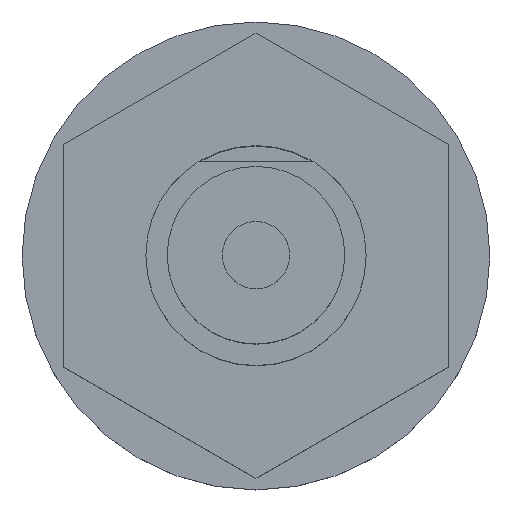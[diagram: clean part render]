
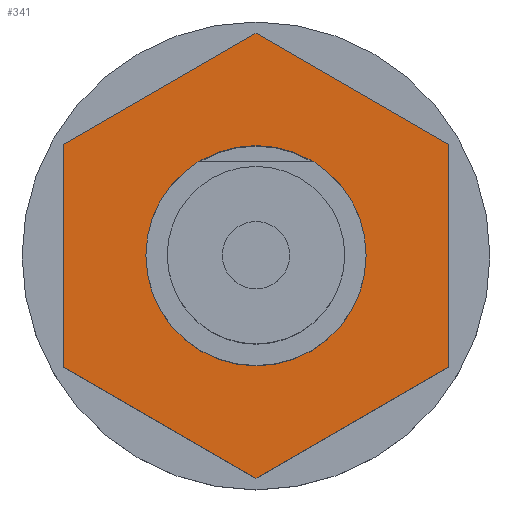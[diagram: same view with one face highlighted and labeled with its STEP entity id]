
A CAD part, top view. The second image highlights one B-rep face of the part: STEP entity #341.
In plain terms, the highlighted planar face has unit normal (0, 0, 1) as drawn and (-1, 0, 0) by its records, which use the part's own axes.
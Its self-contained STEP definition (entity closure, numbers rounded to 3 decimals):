
#264 = ORIENTED_EDGE ( 'NONE', *, *, #265, .T. ) ;
#265 = EDGE_CURVE ( 'NONE', #346, #266, #906, .T. ) ;
#266 = VERTEX_POINT ( 'NONE', #902 ) ;
#267 = ORIENTED_EDGE ( 'NONE', *, *, #268, .T. ) ;
#268 = EDGE_CURVE ( 'NONE', #266, #269, #901, .T. ) ;
#269 = VERTEX_POINT ( 'NONE', #897 ) ;
#270 = ORIENTED_EDGE ( 'NONE', *, *, #271, .T. ) ;
#271 = EDGE_CURVE ( 'NONE', #269, #272, #895, .T. ) ;
#272 = VERTEX_POINT ( 'NONE', #955 ) ;
#273 = ORIENTED_EDGE ( 'NONE', *, *, #274, .T. ) ;
#274 = EDGE_CURVE ( 'NONE', #272, #275, #954, .T. ) ;
#275 = VERTEX_POINT ( 'NONE', #950 ) ;
#276 = ORIENTED_EDGE ( 'NONE', *, *, #277, .T. ) ;
#277 = EDGE_CURVE ( 'NONE', #275, #345, #949, .T. ) ;
#278 = EDGE_LOOP ( 'NONE', ( #279, #280 ) ) ;
#279 = ORIENTED_EDGE ( 'NONE', *, *, #286, .F. ) ;
#280 = ORIENTED_EDGE ( 'NONE', *, *, #281, .F. ) ;
#281 = EDGE_CURVE ( 'NONE', #288, #287, #945, .T. ) ;
#286 = EDGE_CURVE ( 'NONE', #287, #288, #933, .T. ) ;
#287 = VERTEX_POINT ( 'NONE', #929 ) ;
#288 = VERTEX_POINT ( 'NONE', #928 ) ;
#341 = ADVANCED_FACE ( 'NONE', ( #1040, #1039 ), #1038, .T. ) ;
#342 = EDGE_LOOP ( 'NONE', ( #343, #264, #267, #270, #273, #276 ) ) ;
#343 = ORIENTED_EDGE ( 'NONE', *, *, #344, .T. ) ;
#344 = EDGE_CURVE ( 'NONE', #345, #346, #1033, .T. ) ;
#345 = VERTEX_POINT ( 'NONE', #1029 ) ;
#346 = VERTEX_POINT ( 'NONE', #1028 ) ;
#631 = DIRECTION ( 'NONE',  ( 0., -0.5, 0.866 ) ) ;
#893 = VECTOR ( 'NONE', #631, 1000. ) ;
#894 = CARTESIAN_POINT ( 'NONE',  ( -3.4, -2.021, -3.5 ) ) ;
#895 = LINE ( 'NONE', #894, #893 ) ;
#897 = CARTESIAN_POINT ( 'NONE',  ( -3.4, -2.021, -3.5 ) ) ;
#898 = DIRECTION ( 'NONE',  ( 0., -1., 0. ) ) ;
#899 = VECTOR ( 'NONE', #898, 1000. ) ;
#900 = CARTESIAN_POINT ( 'NONE',  ( -3.4, 2.021, -3.5 ) ) ;
#901 = LINE ( 'NONE', #900, #899 ) ;
#902 = CARTESIAN_POINT ( 'NONE',  ( -3.4, 2.021, -3.5 ) ) ;
#903 = DIRECTION ( 'NONE',  ( 0., -0.5, -0.866 ) ) ;
#904 = VECTOR ( 'NONE', #903, 1000. ) ;
#905 = CARTESIAN_POINT ( 'NONE',  ( -3.4, 4.041, 0. ) ) ;
#906 = LINE ( 'NONE', #905, #904 ) ;
#928 = CARTESIAN_POINT ( 'NONE',  ( -3.4, -2., 0. ) ) ;
#929 = CARTESIAN_POINT ( 'NONE',  ( -3.4, 2., 0. ) ) ;
#930 = DIRECTION ( 'NONE',  ( 0., -1., 0. ) ) ;
#931 = DIRECTION ( 'NONE',  ( -1., 0., 0. ) ) ;
#932 = AXIS2_PLACEMENT_3D ( 'NONE', #938, #931, #930 ) ;
#933 = CIRCLE ( 'NONE', #932, 2. ) ;
#938 = CARTESIAN_POINT ( 'NONE',  ( -3.4, 0., 0. ) ) ;
#941 = DIRECTION ( 'NONE',  ( 0., -1., 0. ) ) ;
#942 = DIRECTION ( 'NONE',  ( -1., 0., 0. ) ) ;
#943 = CARTESIAN_POINT ( 'NONE',  ( -3.4, 0., 0. ) ) ;
#944 = AXIS2_PLACEMENT_3D ( 'NONE', #943, #942, #941 ) ;
#945 = CIRCLE ( 'NONE', #944, 2. ) ;
#946 = DIRECTION ( 'NONE',  ( 0., 1., 0. ) ) ;
#947 = VECTOR ( 'NONE', #946, 1000. ) ;
#948 = CARTESIAN_POINT ( 'NONE',  ( -3.4, -2.021, 3.5 ) ) ;
#949 = LINE ( 'NONE', #948, #947 ) ;
#950 = CARTESIAN_POINT ( 'NONE',  ( -3.4, -2.021, 3.5 ) ) ;
#951 = DIRECTION ( 'NONE',  ( 0., 0.5, 0.866 ) ) ;
#952 = VECTOR ( 'NONE', #951, 1000. ) ;
#953 = CARTESIAN_POINT ( 'NONE',  ( -3.4, -4.041, 0. ) ) ;
#954 = LINE ( 'NONE', #953, #952 ) ;
#955 = CARTESIAN_POINT ( 'NONE',  ( -3.4, -4.041, 0. ) ) ;
#1028 = CARTESIAN_POINT ( 'NONE',  ( -3.4, 4.041, 0. ) ) ;
#1029 = CARTESIAN_POINT ( 'NONE',  ( -3.4, 2.021, 3.5 ) ) ;
#1030 = DIRECTION ( 'NONE',  ( 0., 0.5, -0.866 ) ) ;
#1031 = VECTOR ( 'NONE', #1030, 1000. ) ;
#1032 = CARTESIAN_POINT ( 'NONE',  ( -3.4, 2.021, 3.5 ) ) ;
#1033 = LINE ( 'NONE', #1032, #1031 ) ;
#1034 = DIRECTION ( 'NONE',  ( 0., -1., 0. ) ) ;
#1035 = DIRECTION ( 'NONE',  ( -1., 0., 0. ) ) ;
#1036 = CARTESIAN_POINT ( 'NONE',  ( -3.4, 4.041, 0. ) ) ;
#1037 = AXIS2_PLACEMENT_3D ( 'NONE', #1036, #1035, #1034 ) ;
#1038 = PLANE ( 'NONE',  #1037 ) ;
#1039 = FACE_BOUND ( 'NONE', #278, .T. ) ;
#1040 = FACE_OUTER_BOUND ( 'NONE', #342, .T. ) ;
